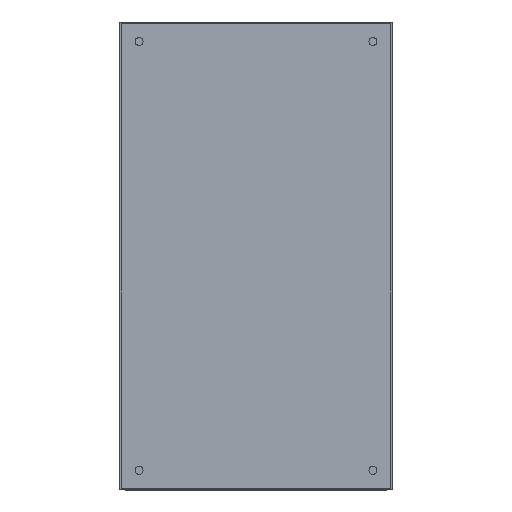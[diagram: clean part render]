
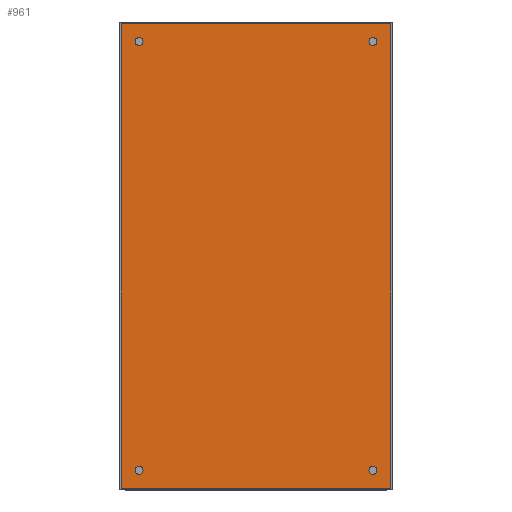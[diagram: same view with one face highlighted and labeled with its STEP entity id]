
A CAD part, top view. The second image highlights one B-rep face of the part: STEP entity #961.
In plain terms, the highlighted planar face has unit normal (0, 0, 1).
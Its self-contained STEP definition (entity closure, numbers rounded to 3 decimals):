
#18=FACE_BOUND('',#281,.T.);
#19=FACE_BOUND('',#282,.T.);
#20=FACE_BOUND('',#283,.T.);
#21=FACE_BOUND('',#284,.T.);
#86=LINE('',#4498,#138);
#90=LINE('',#4506,#142);
#93=LINE('',#4512,#145);
#96=LINE('',#4517,#148);
#138=VECTOR('',#1253,10.);
#142=VECTOR('',#1259,10.);
#145=VECTOR('',#1264,10.);
#148=VECTOR('',#1269,10.);
#165=PLANE('',#1057);
#222=FACE_OUTER_BOUND('',#280,.T.);
#280=EDGE_LOOP('',(#866,#867,#868,#869));
#281=EDGE_LOOP('',(#870));
#282=EDGE_LOOP('',(#871));
#283=EDGE_LOOP('',(#872));
#284=EDGE_LOOP('',(#873));
#326=CIRCLE('',#1042,5.137);
#328=CIRCLE('',#1045,5.137);
#330=CIRCLE('',#1048,5.137);
#332=CIRCLE('',#1051,5.137);
#446=VERTEX_POINT('',#4472);
#448=VERTEX_POINT('',#4478);
#450=VERTEX_POINT('',#4484);
#452=VERTEX_POINT('',#4490);
#454=VERTEX_POINT('',#4496);
#455=VERTEX_POINT('',#4497);
#458=VERTEX_POINT('',#4505);
#460=VERTEX_POINT('',#4511);
#578=EDGE_CURVE('',#446,#446,#326,.T.);
#581=EDGE_CURVE('',#448,#448,#328,.T.);
#584=EDGE_CURVE('',#450,#450,#330,.T.);
#587=EDGE_CURVE('',#452,#452,#332,.T.);
#590=EDGE_CURVE('',#454,#455,#86,.T.);
#594=EDGE_CURVE('',#455,#458,#90,.T.);
#597=EDGE_CURVE('',#458,#460,#93,.T.);
#600=EDGE_CURVE('',#460,#454,#96,.T.);
#866=ORIENTED_EDGE('',*,*,#600,.T.);
#867=ORIENTED_EDGE('',*,*,#590,.T.);
#868=ORIENTED_EDGE('',*,*,#594,.T.);
#869=ORIENTED_EDGE('',*,*,#597,.T.);
#870=ORIENTED_EDGE('',*,*,#578,.T.);
#871=ORIENTED_EDGE('',*,*,#581,.T.);
#872=ORIENTED_EDGE('',*,*,#584,.T.);
#873=ORIENTED_EDGE('',*,*,#587,.T.);
#961=ADVANCED_FACE('',(#222,#18,#19,#20,#21),#165,.T.);
#1042=AXIS2_PLACEMENT_3D('',#4473,#1225,#1226);
#1045=AXIS2_PLACEMENT_3D('',#4479,#1232,#1233);
#1048=AXIS2_PLACEMENT_3D('',#4485,#1239,#1240);
#1051=AXIS2_PLACEMENT_3D('',#4491,#1246,#1247);
#1057=AXIS2_PLACEMENT_3D('',#4519,#1271,#1272);
#1225=DIRECTION('center_axis',(0.,0.,-1.));
#1226=DIRECTION('ref_axis',(1.,0.,0.));
#1232=DIRECTION('center_axis',(0.,0.,-1.));
#1233=DIRECTION('ref_axis',(1.,0.,0.));
#1239=DIRECTION('center_axis',(0.,0.,-1.));
#1240=DIRECTION('ref_axis',(1.,0.,0.));
#1246=DIRECTION('center_axis',(0.,0.,-1.));
#1247=DIRECTION('ref_axis',(1.,0.,0.));
#1253=DIRECTION('',(-1.,0.,0.));
#1259=DIRECTION('',(0.,-1.,0.));
#1264=DIRECTION('',(1.,0.,0.));
#1269=DIRECTION('',(0.,1.,0.));
#1271=DIRECTION('center_axis',(0.,0.,1.));
#1272=DIRECTION('ref_axis',(-1.,0.,0.));
#4472=CARTESIAN_POINT('',(-155.137,-275.,90.));
#4473=CARTESIAN_POINT('Origin',(-150.,-275.,90.));
#4478=CARTESIAN_POINT('',(-155.137,275.,90.));
#4479=CARTESIAN_POINT('Origin',(-150.,275.,90.));
#4484=CARTESIAN_POINT('',(144.863,275.,90.));
#4485=CARTESIAN_POINT('Origin',(150.,275.,90.));
#4490=CARTESIAN_POINT('',(144.863,-275.,90.));
#4491=CARTESIAN_POINT('Origin',(150.,-275.,90.));
#4496=CARTESIAN_POINT('',(173.,298.,90.));
#4497=CARTESIAN_POINT('',(-173.,298.,90.));
#4498=CARTESIAN_POINT('',(173.,298.,90.));
#4505=CARTESIAN_POINT('',(-173.,-298.,90.));
#4506=CARTESIAN_POINT('',(-173.,298.,90.));
#4511=CARTESIAN_POINT('',(173.,-298.,90.));
#4512=CARTESIAN_POINT('',(-173.,-298.,90.));
#4517=CARTESIAN_POINT('',(173.,-298.,90.));
#4519=CARTESIAN_POINT('Origin',(0.,0.,
90.));
